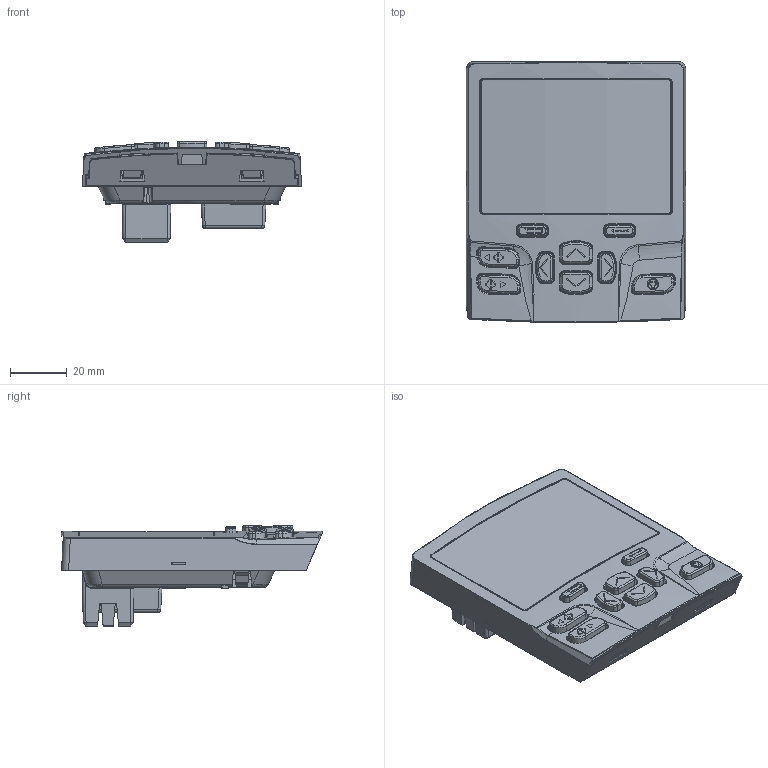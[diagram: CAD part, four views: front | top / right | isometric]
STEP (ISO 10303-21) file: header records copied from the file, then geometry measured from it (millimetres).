
FILE_DESCRIPTION((''),'2;1');
FILE_NAME('GT8_KEYPAD_BASIC_SW0002','2020-03-03T11:49:24',('pshinde'),(''),'CREO PARAMETRIC BY PTC INC, 2018190','CREO PARAMETRIC BY PTC INC, 2018190','');
FILE_SCHEMA(('AUTOMOTIVE_DESIGN { 1 0 10303 214 1 1 1 1 }'));
Length unit declared in the file: millimetre
Products named in the file (1): GT8_KEYPAD_BASIC_SW0002
Bounding box: 77.01 x 91.78 x 35.32 mm (x, y, z)
Surface area: 57971.5 mm2 (no closed solid volume)
Topology: 0 solids, 56 shells, 2183 faces, 7156 edges, 4813 vertices
Faces by surface type: plane 697, cylinder 651, bspline 511, cone 151, torus 127, sphere 38, extrusion 8
Entity records: 126147 total; most frequent: CARTESIAN_POINT 50546, ORIENTED_EDGE 11432, DIRECTION 10017, EDGE_CURVE 7155, VERTEX_POINT 4813, AXIS2_PLACEMENT_3D 3460, FILL_AREA_STYLE_COLOUR 3104, FILL_AREA_STYLE 3104
